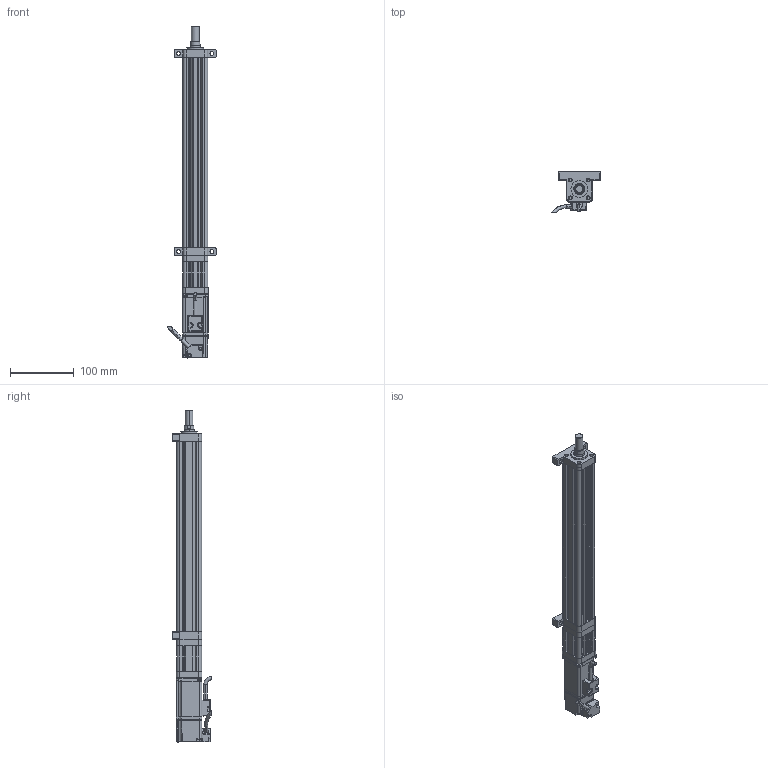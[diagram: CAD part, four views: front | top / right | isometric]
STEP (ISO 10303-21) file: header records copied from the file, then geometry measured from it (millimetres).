
FILE_DESCRIPTION (( 'STEP AP214' ), '1' );
FILE_NAME ('039-S250-D02-A-M2-C1-2.STEP', '2021-03-02T05:34:47', ( '' ), ( '' ), 'SwSTEP 2.0', 'SolidWorks 2018', '' );
FILE_SCHEMA (( 'AUTOMOTIVE_DESIGN' ));
Length unit declared in the file: millimetre
Products named in the file (9): CMC039-AZB; CMC039-DJZ; CMC039-DT; CMC039-GT; CMC039-ZLLJB; ECMA-CX0401ES-40框號系列機種-100W低慣量系列; 039-S250-D02-A-M2-C1-2; CMC039-QDB; CMC039-HDB
Assembly tree (8 placements, depth 2):
  039-S250-D02-A-M2-C1-2
    CMC039-GT
    CMC039-DT
    CMC039-ZLLJB
    CMC039-DJZ
    ECMA-CX0401ES-40框號系列機種-100W低慣量系列
    CMC039-AZB
    CMC039-HDB
    CMC039-QDB
Bounding box: 75.33 x 61.89 x 519.6 mm (x, y, z)
Volume: 524934.9 mm3; surface area: 169920.2 mm2
Topology: 8 solids, 16 shells, 738 faces, 1946 edges, 1225 vertices
Faces by surface type: cylinder 308, plane 307, bspline 84, cone 39
Entity records: 29028 total; most frequent: CARTESIAN_POINT 11402, ORIENTED_EDGE 3826, DIRECTION 3171, EDGE_CURVE 1913, VERTEX_POINT 1225, AXIS2_PLACEMENT_3D 1081, VECTOR 1009, LINE 1009
